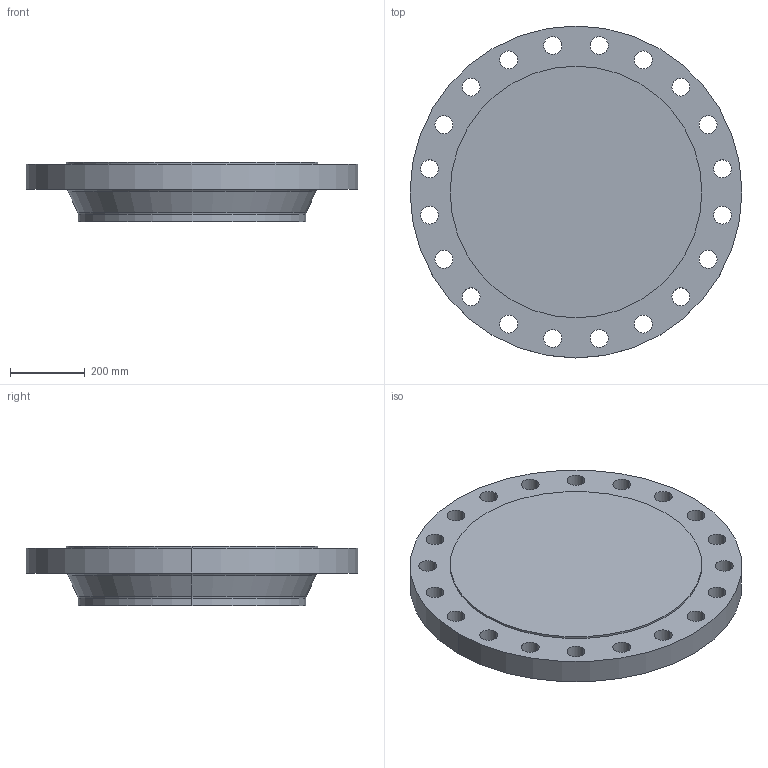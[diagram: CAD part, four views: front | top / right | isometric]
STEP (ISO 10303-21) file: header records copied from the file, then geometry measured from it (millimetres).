
FILE_DESCRIPTION (( 'STEP AP214' ), '1' );
FILE_NAME ('PN40 DN600 Type 21(ii) - Type E Face.STEP', '2018-12-29T04:37:43', ( '' ), ( '' ), 'SwSTEP 2.0', 'SolidWorks 2019', '' );
FILE_SCHEMA (( 'AUTOMOTIVE_DESIGN' ));
Length unit declared in the file: millimetre
Products named in the file (1): PN40 DN600 Type 21(ii) - Type E Face
Bounding box: 890 x 890 x 160 mm (x, y, z)
Volume: 68634928.6 mm3; surface area: 1693633.8 mm2
Topology: 1 solids, 1 shells, 56 faces, 150 edges, 98 vertices
Faces by surface type: cylinder 46, torus 4, plane 4, cone 2
Entity records: 1922 total; most frequent: DIRECTION 366, CARTESIAN_POINT 305, ORIENTED_EDGE 300, AXIS2_PLACEMENT_3D 159, EDGE_CURVE 150, CIRCLE 102, EDGE_LOOP 98, VERTEX_POINT 98
